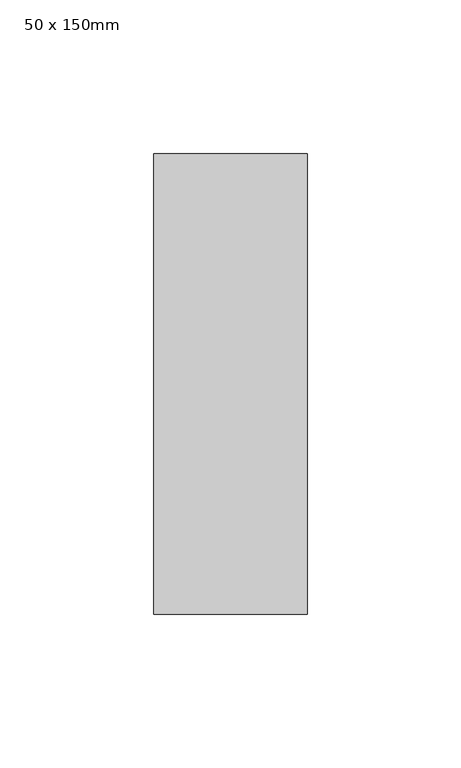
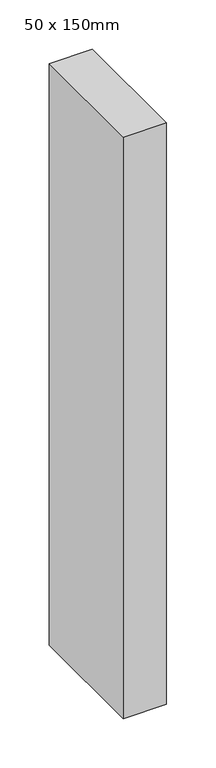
"""IFC4 building model written with IfcOpenShell, lengths in millimetres: member geometry, Прямоугольный импост : 50 x 150mm."""

from ifc_helpers import new_model, si_unit, frame, origin, place, context, project, spatial, polyline, outline, extrude, source, transform, mapped, element, save


def member_50_x_150mm_2fb13df4(model_context):
    return source(origin(), model_context, "Body", "SweptSolid", [
        extrude(outline(polyline([(0.0, 75.0), (0.0, -75.0), (-50.0, -75.0), (-50.0, 75.0), (0.0, 75.0)])), frame((0.0, 0.0, -719.1716689), z_axis=(0.0, 0.0, 1.0), x_axis=(1.0, 0.0, 0.0)), (0.0, 0.0, 1.0), 719.1716689),
    ])


if __name__ == "__main__":
    model = new_model("IFC4")
    model_context = context("Model", 3, world=origin())
    ifc_project = project(units=[si_unit("LENGTHUNIT", "METRE", prefix="MILLI")], contexts=[model_context])
    site = spatial("IfcSite", under=ifc_project)
    building = spatial("IfcBuilding", under=site)
    placement = place(None, origin())
    member_50_x_150mm_shape = member_50_x_150mm_2fb13df4(model_context)
    element("IfcMember", 1, ObjectType="Прямоугольный импост : 50 x 150mm", at=placement, inside=building, context=model_context, shape_type="MappedRepresentation", body=[
        mapped(member_50_x_150mm_shape, transform((0.0, 0.0, 0.0), x_axis=(1.0, 0.0, 0.0), y_axis=(0.0, 1.0, 0.0), z_axis=(0.0, 0.0, 1.0))),
    ])
    save(model, "model.ifc")
